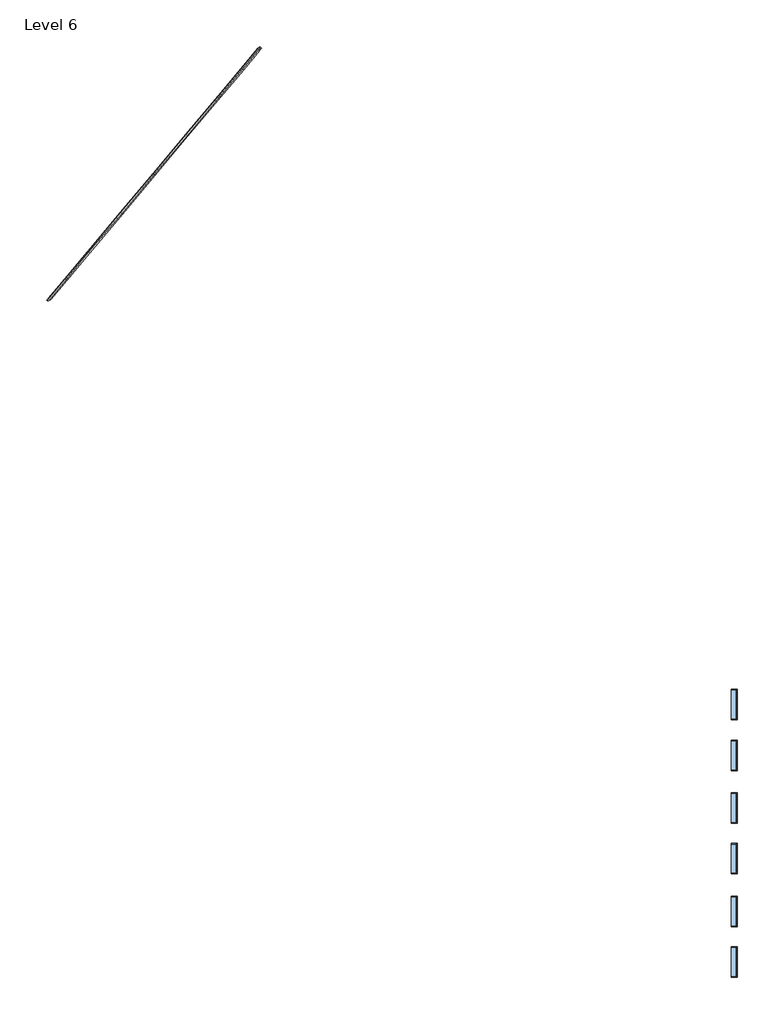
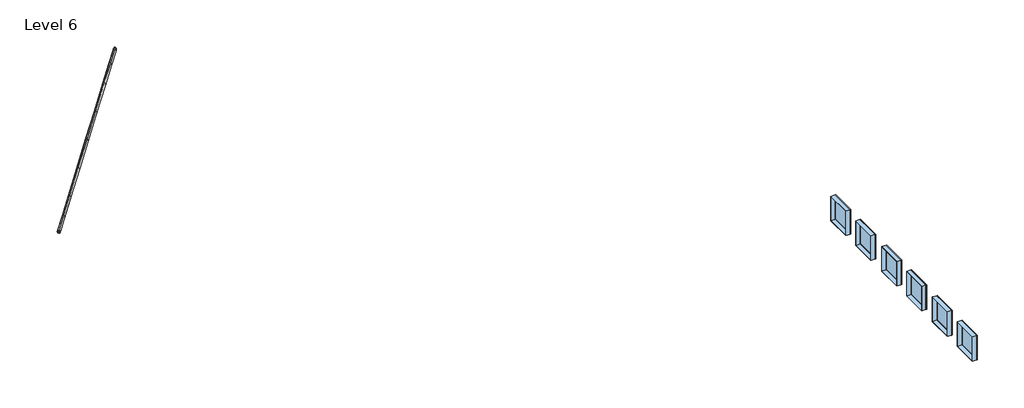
# One storey: 24 members, 8 plates, 6 windows.
"""IFC4 building model written with IfcOpenShell, lengths in millimetres."""

from ifc_helpers import new_model, si_unit, origin, place, context, project, spatial, transform, mapped, element, save
from components import member_4e80e9f6, member_eaba9652, member_7cbddb58, member_117cba67, member_29169f0d, member_8a652077, member_953b912b, member_8d9d8c11, member_b84f6d6b, system_panel_glazed_c5db4c66, system_panel_glazed_206ab21f, system_panel_glazed_7e8a27b7, fixed_6_x_6_52427b03, fixed_6_x_6_d3be8ccb

model = new_model("IFC4")

# Units and contexts
model_context = context("Model", 3, world=origin())
ifc_project = project(units=[si_unit("LENGTHUNIT", "METRE", prefix="MILLI")], contexts=[model_context])

# Site, building, storey
site = spatial("IfcSite", under=ifc_project)
building = spatial("IfcBuilding", under=site)
storey = spatial("IfcBuildingStorey", under=building, Name="Level 6", Elevation=15240.0)

# Members
placement = place(None, origin())
member_shape = member_4e80e9f6(model_context)
element("IfcMember", 1, ObjectType="Rectangular Mullion : 1.5\" x 2.5\" rectangular", at=placement, inside=storey, context=model_context, shape_type="MappedRepresentation", body=[
    mapped(member_shape, transform((-58047.6752037, 33669.3461699, 15450.3014149), x_axis=(0.6427876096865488, 0.7660444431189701, 0.0), y_axis=(-0.7660444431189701, 0.6427876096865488, 0.0), z_axis=(0.0, 0.0, 1.0))),
])
element("IfcMember", 2, ObjectType="Rectangular Mullion : 1.5\" x 2.5\" rectangular", at=placement, inside=storey, context=model_context, shape_type="MappedRepresentation", body=[
    mapped(member_shape, transform((-56676.2235597, 35303.7785937, 15450.3014149), x_axis=(0.6427876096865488, 0.7660444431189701, 0.0), y_axis=(-0.7660444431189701, 0.6427876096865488, 0.0), z_axis=(0.0, 0.0, 1.0))),
])
element("IfcMember", 3, ObjectType="Rectangular Mullion : 1.5\" x 2.5\" rectangular", at=placement, inside=storey, context=model_context, shape_type="MappedRepresentation", body=[
    mapped(member_shape, transform((-54717.0069254, 37638.6820564, 15450.3014149), x_axis=(0.6427876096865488, 0.7660444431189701, 0.0), y_axis=(-0.7660444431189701, 0.6427876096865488, 0.0), z_axis=(0.0, 0.0, 1.0))),
])
element("IfcMember", 4, ObjectType="Rectangular Mullion : 1.5\" x 2.5\" rectangular", at=placement, inside=storey, context=model_context, shape_type="MappedRepresentation", body=[
    mapped(member_shape, transform((-52757.790291, 39973.585519, 15450.3014149), x_axis=(0.6427876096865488, 0.7660444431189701, 0.0), y_axis=(-0.7660444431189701, 0.6427876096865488, 0.0), z_axis=(0.0, 0.0, 1.0))),
])
element("IfcMember", 5, ObjectType="Rectangular Mullion : 1.5\" x 2.5\" rectangular", at=placement, inside=storey, context=model_context, shape_type="MappedRepresentation", body=[
    mapped(member_shape, transform((-50798.5736567, 42308.4889816, 15450.3014149), x_axis=(0.6427876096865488, 0.7660444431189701, 0.0), y_axis=(-0.7660444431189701, 0.6427876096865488, 0.0), z_axis=(0.0, 0.0, 1.0))),
])
element("IfcMember", 6, ObjectType="Rectangular Mullion : 1.5\" x 2.5\" rectangular", at=placement, inside=storey, context=model_context, shape_type="MappedRepresentation", body=[
    mapped(member_shape, transform((-48839.3570224, 44643.3924442, 15450.3014149), x_axis=(0.6427876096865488, 0.7660444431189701, 0.0), y_axis=(-0.7660444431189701, 0.6427876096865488, 0.0), z_axis=(0.0, 0.0, 1.0))),
])
element("IfcMember", 7, ObjectType="Rectangular Mullion : 1.5\" x 2.5\" rectangular", at=placement, inside=storey, context=model_context, shape_type="MappedRepresentation", body=[
    mapped(member_shape, transform((-47467.9053784, 46277.8248681, 15450.3014149), x_axis=(0.6427876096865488, 0.7660444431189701, 0.0), y_axis=(-0.7660444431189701, 0.6427876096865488, 0.0), z_axis=(0.0, 0.0, 1.0))),
])
member_2_shape = member_eaba9652(model_context)
element("IfcMember", 8, ObjectType="Rectangular Mullion : 2.5\" x 5\" rectangular", at=placement, inside=storey, context=model_context, shape_type="MappedRepresentation", body=[
    mapped(member_2_shape, transform((-56676.2235597, 35303.7785937, 15320.2474171), x_axis=(0.0, 0.0, 1.0), y_axis=(-0.7660444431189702, 0.6427876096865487, 0.0), z_axis=(-0.6427876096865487, -0.7660444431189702, 0.0))),
])
element("IfcMember", 9, ObjectType="Rectangular Mullion : 2.5\" x 5\" rectangular", at=placement, inside=storey, context=model_context, shape_type="MappedRepresentation", body=[
    mapped(member_2_shape, transform((-54717.0069254, 37638.6820564, 15320.2474171), x_axis=(0.0, 0.0, 1.0), y_axis=(-0.76604444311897, 0.642787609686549, 0.0), z_axis=(-0.6427876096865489, -0.7660444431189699, 0.0))),
])
element("IfcMember", 10, ObjectType="Rectangular Mullion : 2.5\" x 5\" rectangular", at=placement, inside=storey, context=model_context, shape_type="MappedRepresentation", body=[
    mapped(member_2_shape, transform((-52757.790291, 39973.585519, 15320.2474171), x_axis=(0.0, 0.0, 1.0), y_axis=(-0.76604444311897, 0.642787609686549, 0.0), z_axis=(-0.6427876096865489, -0.7660444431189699, 0.0))),
])
element("IfcMember", 11, ObjectType="Rectangular Mullion : 2.5\" x 5\" rectangular", at=placement, inside=storey, context=model_context, shape_type="MappedRepresentation", body=[
    mapped(member_2_shape, transform((-50798.5736567, 42308.4889816, 15320.2474171), x_axis=(0.0, 0.0, 1.0), y_axis=(-0.766044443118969, 0.64278760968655, 0.0), z_axis=(-0.64278760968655, -0.766044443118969, 0.0))),
])
member_3_shape = member_7cbddb58(model_context)
element("IfcMember", 12, ObjectType="Rectangular Mullion : 2.5\" x 5\" rectangular", at=placement, inside=storey, context=model_context, shape_type="MappedRepresentation", body=[
    mapped(member_3_shape, transform((-58047.6752037, 33669.3461699, 15320.2474171), x_axis=(0.0, 0.0, 1.0), y_axis=(-0.766044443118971, 0.6427876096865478, 0.0), z_axis=(-0.6427876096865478, -0.766044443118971, 0.0))),
])
element("IfcMember", 13, ObjectType="Rectangular Mullion : 2.5\" x 5\" rectangular", at=placement, inside=storey, context=model_context, shape_type="MappedRepresentation", body=[
    mapped(member_3_shape, transform((-48839.3570224, 44643.3924442, 15320.2474171), x_axis=(0.0, 0.0, 1.0), y_axis=(-0.766044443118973, 0.6427876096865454, 0.0), z_axis=(-0.6427876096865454, -0.766044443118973, 0.0))),
])
member_4_shape = member_117cba67(model_context)
element("IfcMember", 14, ObjectType="Rectangular Mullion : 2.5\" x 5\" rectangular", at=placement, inside=storey, context=model_context, shape_type="MappedRepresentation", body=[
    mapped(member_4_shape, transform((-47467.9053784, 46277.8248681, 15320.2474171), x_axis=(0.0, 0.0, 1.0), y_axis=(-0.766044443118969, 0.6427876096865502, 0.0), z_axis=(-0.6427876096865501, -0.7660444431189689, 0.0))),
])
element("IfcMember", 15, ObjectType="Rectangular Mullion : 2.5\" x 5\" rectangular", at=placement, inside=storey, context=model_context, shape_type="MappedRepresentation", body=[
    mapped(member_4_shape, transform((-59041.0592628, 32485.4771486, 15320.2474171), x_axis=(0.0, 0.0, 1.0), y_axis=(-0.766044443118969, 0.6427876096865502, 0.0), z_axis=(-0.6427876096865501, -0.7660444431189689, 0.0))),
])
member_5_shape = member_29169f0d(model_context)
element("IfcMember", 16, ObjectType="V Corner Mullion : 5\" V Corner", at=placement, inside=storey, context=model_context, shape_type="MappedRepresentation", body=[
    mapped(member_5_shape, transform((-56676.2235597, 35303.7785937, 15522.824296), x_axis=(0.0, 0.0, 1.0), y_axis=(-0.7660444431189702, 0.6427876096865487, 0.0), z_axis=(-0.6427876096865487, -0.7660444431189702, 0.0))),
])
element("IfcMember", 17, ObjectType="V Corner Mullion : 5\" V Corner", at=placement, inside=storey, context=model_context, shape_type="MappedRepresentation", body=[
    mapped(member_5_shape, transform((-54717.0069254, 37638.6820564, 15522.824296), x_axis=(0.0, 0.0, 1.0), y_axis=(-0.76604444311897, 0.642787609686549, 0.0), z_axis=(-0.6427876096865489, -0.7660444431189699, 0.0))),
])
element("IfcMember", 18, ObjectType="V Corner Mullion : 5\" V Corner", at=placement, inside=storey, context=model_context, shape_type="MappedRepresentation", body=[
    mapped(member_5_shape, transform((-52757.790291, 39973.585519, 15522.824296), x_axis=(0.0, 0.0, 1.0), y_axis=(-0.76604444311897, 0.642787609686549, 0.0), z_axis=(-0.6427876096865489, -0.7660444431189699, 0.0))),
])
element("IfcMember", 19, ObjectType="V Corner Mullion : 5\" V Corner", at=placement, inside=storey, context=model_context, shape_type="MappedRepresentation", body=[
    mapped(member_5_shape, transform((-50798.5736567, 42308.4889816, 15522.824296), x_axis=(0.0, 0.0, 1.0), y_axis=(-0.766044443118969, 0.64278760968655, 0.0), z_axis=(-0.64278760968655, -0.766044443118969, 0.0))),
])
member_6_shape = member_8a652077(model_context)
element("IfcMember", 20, ObjectType="V Corner Mullion : 5\" V Corner", at=placement, inside=storey, context=model_context, shape_type="MappedRepresentation", body=[
    mapped(member_6_shape, transform((-58047.6752037, 33669.3461699, 15522.824296), x_axis=(0.0, 0.0, 1.0), y_axis=(-0.766044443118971, 0.6427876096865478, 0.0), z_axis=(-0.6427876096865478, -0.766044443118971, 0.0))),
])
element("IfcMember", 21, ObjectType="V Corner Mullion : 5\" V Corner", at=placement, inside=storey, context=model_context, shape_type="MappedRepresentation", body=[
    mapped(member_6_shape, transform((-48839.3570224, 44643.3924442, 15522.824296), x_axis=(0.0, 0.0, 1.0), y_axis=(-0.766044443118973, 0.6427876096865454, 0.0), z_axis=(-0.6427876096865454, -0.766044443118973, 0.0))),
])
member_7_shape = member_953b912b(model_context)
element("IfcMember", 22, ObjectType="V Corner Mullion : 5\" V Corner", at=placement, inside=storey, context=model_context, shape_type="MappedRepresentation", body=[
    mapped(member_7_shape, transform((-47467.9053784, 46277.8248681, 15522.824296), x_axis=(0.0, 0.0, 1.0), y_axis=(-0.766044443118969, 0.6427876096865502, 0.0), z_axis=(-0.6427876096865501, -0.7660444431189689, 0.0))),
])
member_8_shape = member_8d9d8c11(model_context)
element("IfcMember", 23, ObjectType="V Corner Mullion : 5\" V Corner", at=placement, inside=storey, context=model_context, shape_type="MappedRepresentation", body=[
    mapped(member_8_shape, transform((-46413.2957994, 47534.6596226, 15522.824296), x_axis=(0.6427876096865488, 0.7660444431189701, 0.0), y_axis=(-0.7660444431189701, 0.6427876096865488, 0.0), z_axis=(0.0, 0.0, 1.0))),
])
member_9_shape = member_b84f6d6b(model_context)
element("IfcMember", 24, ObjectType="V Corner Mullion : 5\" V Corner", at=placement, inside=storey, context=model_context, shape_type="MappedRepresentation", body=[
    mapped(member_9_shape, transform((-59102.2847827, 32412.5114154, 15522.824296), x_axis=(0.0, 0.0, 1.0), y_axis=(-0.766044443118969, 0.6427876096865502, 0.0), z_axis=(-0.6427876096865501, -0.7660444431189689, 0.0))),
])

# Plates
system_panel_glazed_shape = system_panel_glazed_c5db4c66(model_context)
element("IfcPlate", 25, ObjectType="System Panel : Glazed", at=placement, inside=storey, context=model_context, shape_type="MappedRepresentation", body=[
    mapped(system_panel_glazed_shape, transform((-57361.9493817, 34486.5623818, 15351.9974171), x_axis=(0.6427876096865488, 0.7660444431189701, 0.0), y_axis=(-0.7660444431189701, 0.6427876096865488, 0.0), z_axis=(0.0, 0.0, 1.0))),
])
element("IfcPlate", 26, ObjectType="System Panel : Glazed", at=placement, inside=storey, context=model_context, shape_type="MappedRepresentation", body=[
    mapped(system_panel_glazed_shape, transform((-48153.6312004, 45460.6086562, 15351.9974171), x_axis=(0.6427876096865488, 0.7660444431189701, 0.0), y_axis=(-0.7660444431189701, 0.6427876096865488, 0.0), z_axis=(0.0, 0.0, 1.0))),
])
system_panel_glazed_2_shape = system_panel_glazed_206ab21f(model_context)
element("IfcPlate", 27, ObjectType="System Panel : Glazed", at=placement, inside=storey, context=model_context, shape_type="MappedRepresentation", body=[
    mapped(system_panel_glazed_2_shape, transform((-55696.6152425, 36471.230325, 15351.9974171), x_axis=(0.6427876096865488, 0.7660444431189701, 0.0), y_axis=(-0.7660444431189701, 0.6427876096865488, 0.0), z_axis=(0.0, 0.0, 1.0))),
])
element("IfcPlate", 28, ObjectType="System Panel : Glazed", at=placement, inside=storey, context=model_context, shape_type="MappedRepresentation", body=[
    mapped(system_panel_glazed_2_shape, transform((-53737.3986082, 38806.1337877, 15351.9974171), x_axis=(0.6427876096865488, 0.7660444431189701, 0.0), y_axis=(-0.7660444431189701, 0.6427876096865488, 0.0), z_axis=(0.0, 0.0, 1.0))),
])
element("IfcPlate", 29, ObjectType="System Panel : Glazed", at=placement, inside=storey, context=model_context, shape_type="MappedRepresentation", body=[
    mapped(system_panel_glazed_2_shape, transform((-51778.1819739, 41141.0372503, 15351.9974171), x_axis=(0.6427876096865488, 0.7660444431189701, 0.0), y_axis=(-0.7660444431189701, 0.6427876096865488, 0.0), z_axis=(0.0, 0.0, 1.0))),
])
element("IfcPlate", 30, ObjectType="System Panel : Glazed", at=placement, inside=storey, context=model_context, shape_type="MappedRepresentation", body=[
    mapped(system_panel_glazed_2_shape, transform((-49818.9653396, 43475.9407129, 15351.9974171), x_axis=(0.6427876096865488, 0.7660444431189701, 0.0), y_axis=(-0.7660444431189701, 0.6427876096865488, 0.0), z_axis=(0.0, 0.0, 1.0))),
])
system_panel_glazed_3_shape = system_panel_glazed_7e8a27b7(model_context)
element("IfcPlate", 31, ObjectType="System Panel : Glazed", at=placement, inside=storey, context=model_context, shape_type="MappedRepresentation", body=[
    mapped(system_panel_glazed_3_shape, transform((-58550.4897853, 33070.1150859, 15351.9974171), x_axis=(0.6427876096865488, 0.7660444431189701, 0.0), y_axis=(-0.7660444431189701, 0.6427876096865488, 0.0), z_axis=(0.0, 0.0, 1.0))),
])
element("IfcPlate", 32, ObjectType="System Panel : Glazed", at=placement, inside=storey, context=model_context, shape_type="MappedRepresentation", body=[
    mapped(system_panel_glazed_3_shape, transform((-46965.0907968, 46877.055952, 15351.9974171), x_axis=(0.6427876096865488, 0.7660444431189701, 0.0), y_axis=(-0.7660444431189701, 0.6427876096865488, 0.0), z_axis=(0.0, 0.0, 1.0))),
])

# Windows
fixed_6_x_6_shape = fixed_6_x_6_52427b03(model_context)
element("IfcWindow", 33, ObjectType="Fixed : 6' x 6'", at=placement, inside=storey, context=model_context, shape_type="MappedRepresentation", body=[
    mapped(fixed_6_x_6_shape, transform((-17953.3261573, -7285.2504393, 15152.8335849), x_axis=(0.0, -1.0, 0.0), y_axis=(1.0, 0.0, 0.0), z_axis=(0.0, 0.0, 1.0))),
])
element("IfcWindow", 34, ObjectType="Fixed : 6' x 6'", at=placement, inside=storey, context=model_context, shape_type="MappedRepresentation", body=[
    mapped(fixed_6_x_6_shape, transform((-17953.3261573, -4237.2504393, 15152.8335849), x_axis=(0.0, -1.0, 0.0), y_axis=(1.0, 0.0, 0.0), z_axis=(0.0, 0.0, 1.0))),
])
element("IfcWindow", 35, ObjectType="Fixed : 6' x 6'", at=placement, inside=storey, context=model_context, shape_type="MappedRepresentation", body=[
    mapped(fixed_6_x_6_shape, transform((-17953.3261573, -1086.0629393, 15152.8335849), x_axis=(0.0, -1.0, 0.0), y_axis=(1.0, 0.0, 0.0), z_axis=(0.0, 0.0, 1.0))),
])
element("IfcWindow", 36, ObjectType="Fixed : 6' x 6'", at=placement, inside=storey, context=model_context, shape_type="MappedRepresentation", body=[
    mapped(fixed_6_x_6_shape, transform((-17953.3261573, 1961.9370607, 15152.8335849), x_axis=(0.0, -1.0, 0.0), y_axis=(1.0, 0.0, 0.0), z_axis=(0.0, 0.0, 1.0))),
])
fixed_6_x_6_2_shape = fixed_6_x_6_d3be8ccb(model_context)
element("IfcWindow", 37, ObjectType="Fixed : 6' x 6'", at=placement, inside=storey, context=model_context, shape_type="MappedRepresentation", body=[
    mapped(fixed_6_x_6_2_shape, transform((-17953.3261573, 8237.3245607, 15152.8335849), x_axis=(0.0, 1.0, 0.0), y_axis=(-1.0, 0.0, 0.0), z_axis=(0.0, 0.0, 1.0))),
])
element("IfcWindow", 38, ObjectType="Fixed : 6' x 6'", at=placement, inside=storey, context=model_context, shape_type="MappedRepresentation", body=[
    mapped(fixed_6_x_6_2_shape, transform((-17953.3261573, 5189.3245607, 15152.8335849), x_axis=(0.0, 1.0, 0.0), y_axis=(-1.0, 0.0, 0.0), z_axis=(0.0, 0.0, 1.0))),
])

save(model, "model.ifc")
